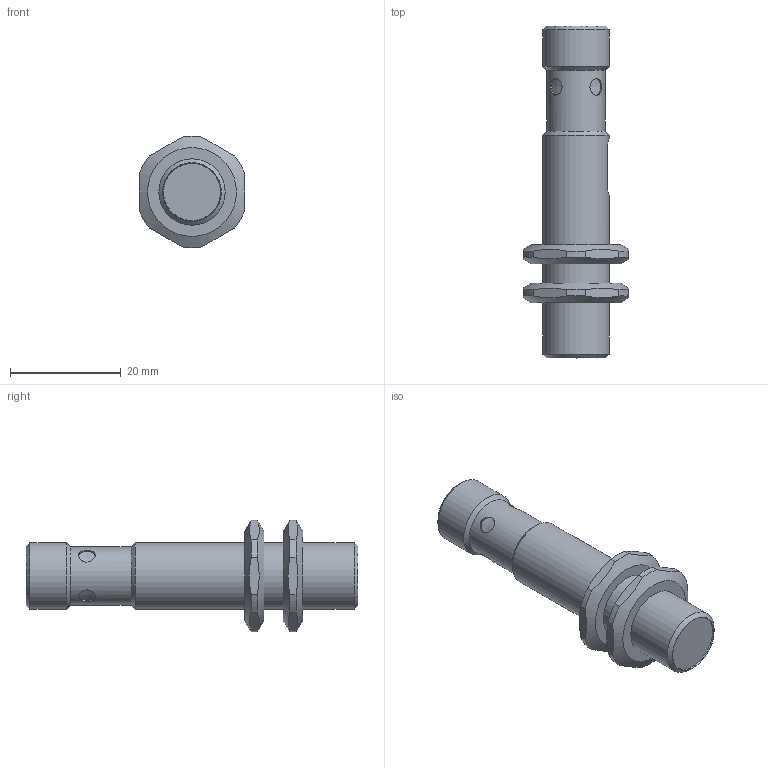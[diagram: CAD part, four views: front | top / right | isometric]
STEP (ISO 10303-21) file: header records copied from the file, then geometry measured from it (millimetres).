
FILE_DESCRIPTION(/* description */ (''),/* implementation_level */ '2;1');
FILE_NAME(/* name */ '3DCAD_PRK412B_X_M12.stp',/* time_stamp */ '2018-07-05T15:03:04+02:00',/* author */ ('CC2'),/* organization */ ('Leuze electronic'),/* preprocessor_version */ 'ST-DEVELOPER v16',/* originating_system */ 'SIEMENS PLM Software NX 11.0',/* authorisation */ '');
FILE_SCHEMA (('AUTOMOTIVE_DESIGN { 1 0 10303 214 3 1 1 1 }'));
Length unit declared in the file: millimetre
Products named in the file (2): T_C_M_5915_00.0_1-Mutter 6KT - M12; 19-102811_00_1-3DCAD_PRK412B_X_M12
Assembly tree (2 placements, depth 2):
  19-102811_00_1-3DCAD_PRK412B_X_M12
    T_C_M_5915_00.0_1-Mutter 6KT - M12  x2
Bounding box: 19 x 60 x 20.16 mm (x, y, z)
Volume: 7065.9 mm3; surface area: 4029.1 mm2
Topology: 3 solids, 3 shells, 84 faces, 209 edges, 137 vertices
Faces by surface type: cylinder 29, plane 24, bspline 15, cone 10, sphere 6
Full cylindrical faces by diameter (mm): 1 x4, 3 x4, 8.5 x1, 10.55 x1, 12 x4
Entity records: 4304 total; most frequent: CARTESIAN_POINT 3028, ORIENTED_EDGE 246, DIRECTION 194, EDGE_CURVE 123, EDGE_LOOP 103, VERTEX_POINT 94, AXIS2_PLACEMENT_3D 86, ADVANCED_FACE 67
